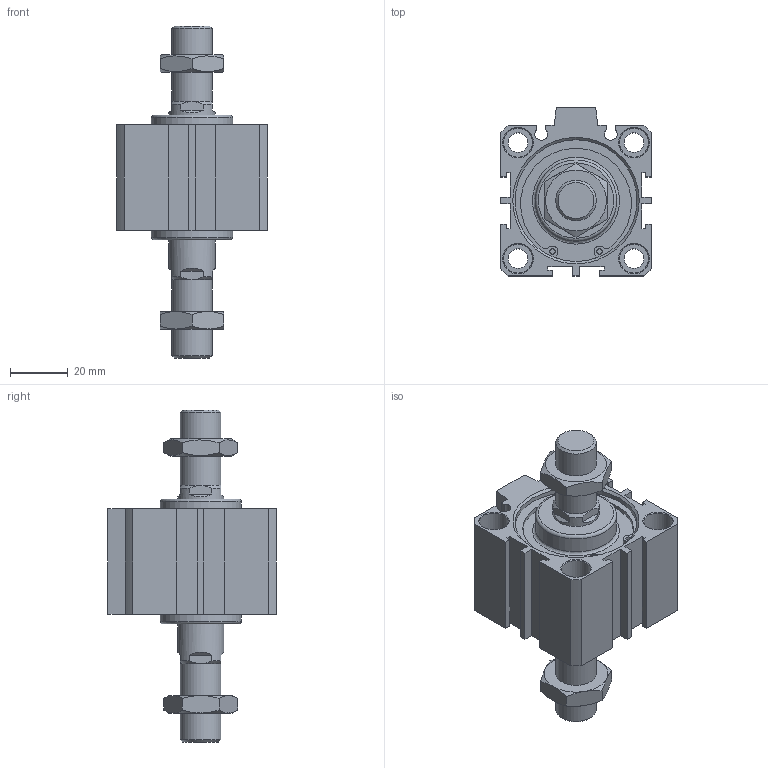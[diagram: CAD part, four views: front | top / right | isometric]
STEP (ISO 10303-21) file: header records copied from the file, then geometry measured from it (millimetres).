
FILE_DESCRIPTION((''),'2;1');
FILE_NAME('I:\3D電子目錄\氣缸\JDD\JDD-B\JDD40-B\JDD40x10-B.stp','2007-02-09T16:53:18',('662F206'),(''),'Autodesk Inventor 10','Autodesk Inventor 10','');
FILE_SCHEMA(('AUTOMOTIVE_DESIGN { 1 0 10303 214 1 1 1 1 }'));
Length unit declared in the file: millimetre
Products named in the file (3): JDD40-B; R 形環 42
Assembly tree (3 placements, depth 2):
  JDD40-B
    JDD40-B
    R 形環 42  x2
Bounding box: 52 x 58 x 114.5 mm (x, y, z)
Volume: 98300.6 mm3; surface area: 29485.9 mm2
Topology: 3 solids, 3 shells, 206 faces, 486 edges, 312 vertices
Faces by surface type: plane 114, cylinder 50, cone 38, bspline 2, torus 2
Full cylindrical faces by diameter (mm): 1.9 x4, 2.2 x2, 6.8 x4, 10 x8, 14 x4, 16 x2, 28 x2, 42 x4, 44.5 x2
Entity records: 5343 total; most frequent: CARTESIAN_POINT 1072, DIRECTION 880, ORIENTED_EDGE 792, EDGE_CURVE 396, AXIS2_PLACEMENT_3D 338, VERTEX_POINT 284, EDGE_LOOP 284, VECTOR 204
